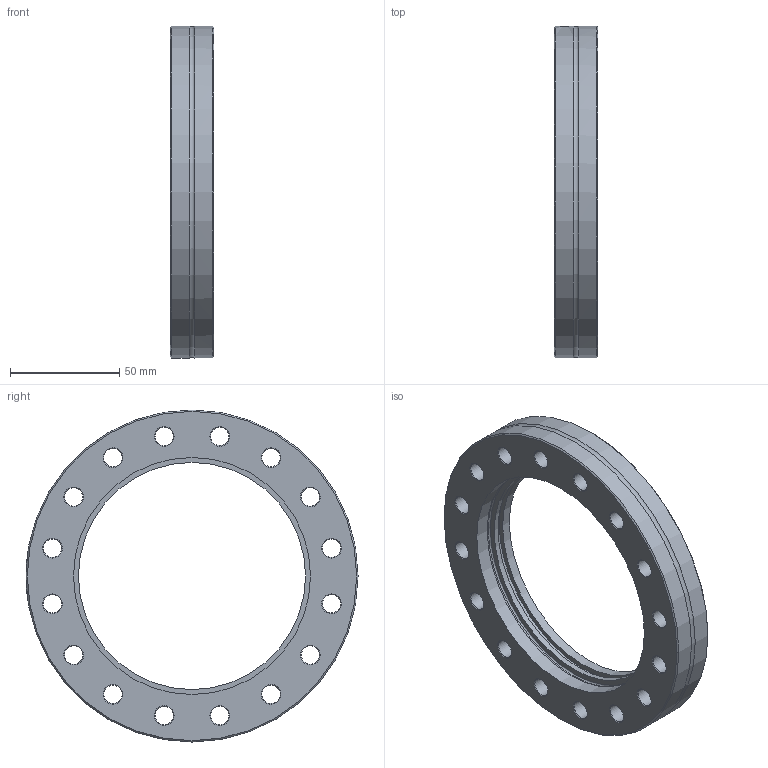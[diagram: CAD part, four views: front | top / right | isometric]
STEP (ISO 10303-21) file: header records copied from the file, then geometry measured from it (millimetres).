
FILE_DESCRIPTION((''),'2;1');
FILE_NAME('W:\13785_CF_Global_Fit_Umsetzung\037_Welding_Flange\M213-124.stp','2010-09-01T10:21:34',('KAA'),(''),'Autodesk Inventor 2011','Autodesk Inventor 2011','');
FILE_SCHEMA(('AUTOMOTIVE_DESIGN { 1 0 10303 214 1 1 1 1 }'));
Length unit declared in the file: millimetre
Products named in the file (1): 213-124
Bounding box: 20 x 152 x 152 mm (x, y, z)
Volume: 161991.3 mm3; surface area: 43753.7 mm2
Topology: 1 solids, 1 shells, 163 faces, 425 edges, 275 vertices
Faces by surface type: plane 52, cone 39, bspline 35, cylinder 32, torus 5
Full cylindrical faces by diameter (mm): 8.4 x16, 104 x2, 108.5 x2, 152 x2
Entity records: 13821 total; most frequent: CARTESIAN_POINT 10349, ORIENTED_EDGE 680, DIRECTION 592, EDGE_CURVE 340, EDGE_LOOP 273, VERTEX_POINT 255, AXIS2_PLACEMENT_3D 242, FACE_OUTER_BOUND 163
